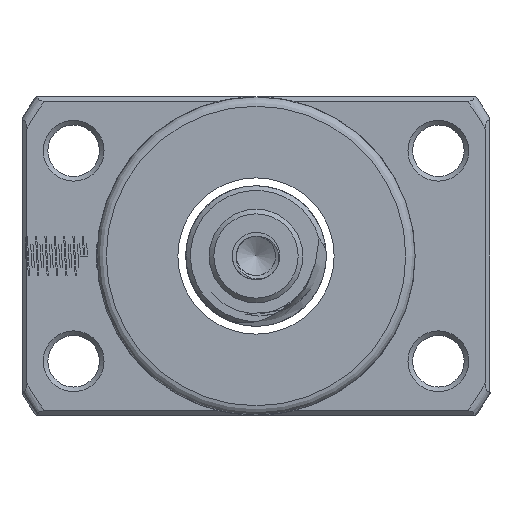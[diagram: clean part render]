
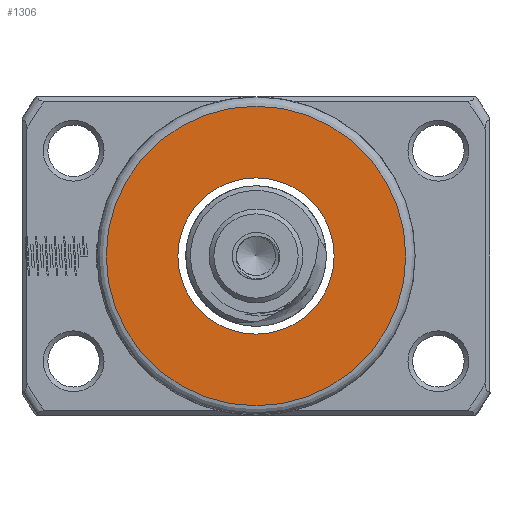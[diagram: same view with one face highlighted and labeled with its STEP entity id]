
A CAD part, left-side view. The second image highlights one B-rep face of the part: STEP entity #1306.
In plain terms, the highlighted planar face has unit normal (-1, 0, 0).
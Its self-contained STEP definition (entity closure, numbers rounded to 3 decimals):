
#1306 = ADVANCED_FACE ( 'NONE', ( #12400, #18552 ), #13809, .T. ) ;
#1679 = ORIENTED_EDGE ( 'NONE', *, *, #5493, .T. ) ;
#1704 = AXIS2_PLACEMENT_3D ( 'NONE', #9481, #10890, #1708 ) ;
#1708 = DIRECTION ( 'NONE',  ( 0., 0., 1. ) ) ;
#2919 = CIRCLE ( 'NONE', #19329, 8.35 ) ;
#3332 = CARTESIAN_POINT ( 'NONE',  ( -53.324, 0., 0. ) ) ;
#4281 = CIRCLE ( 'NONE', #4607, 16. ) ;
#4607 = AXIS2_PLACEMENT_3D ( 'NONE', #16603, #5520, #8451 ) ;
#4950 = DIRECTION ( 'NONE',  ( 0., 0., 1. ) ) ;
#5396 = ORIENTED_EDGE ( 'NONE', *, *, #19326, .F. ) ;
#5493 = EDGE_CURVE ( 'NONE', #12707, #12707, #4281, .T. ) ;
#5520 = DIRECTION ( 'NONE',  ( -1., 0., 0. ) ) ;
#7110 = EDGE_LOOP ( 'NONE', ( #5396 ) ) ;
#8451 = DIRECTION ( 'NONE',  ( 0., 0., 1. ) ) ;
#8571 = CARTESIAN_POINT ( 'NONE',  ( -53.324, 0., 8.35 ) ) ;
#9481 = CARTESIAN_POINT ( 'NONE',  ( -53.324, 8.35, 0. ) ) ;
#10890 = DIRECTION ( 'NONE',  ( -1., 0., 0. ) ) ;
#12400 = FACE_OUTER_BOUND ( 'NONE', #15333, .T. ) ;
#12707 = VERTEX_POINT ( 'NONE', #18950 ) ;
#13809 = PLANE ( 'NONE',  #1704 ) ;
#15333 = EDGE_LOOP ( 'NONE', ( #1679 ) ) ;
#15341 = DIRECTION ( 'NONE',  ( -1., 0., 0. ) ) ;
#16603 = CARTESIAN_POINT ( 'NONE',  ( -53.324, 0., 0. ) ) ;
#16624 = VERTEX_POINT ( 'NONE', #8571 ) ;
#18552 = FACE_BOUND ( 'NONE', #7110, .T. ) ;
#18950 = CARTESIAN_POINT ( 'NONE',  ( -53.324, 0., 16. ) ) ;
#19326 = EDGE_CURVE ( 'NONE', #16624, #16624, #2919, .T. ) ;
#19329 = AXIS2_PLACEMENT_3D ( 'NONE', #3332, #15341, #4950 ) ;
